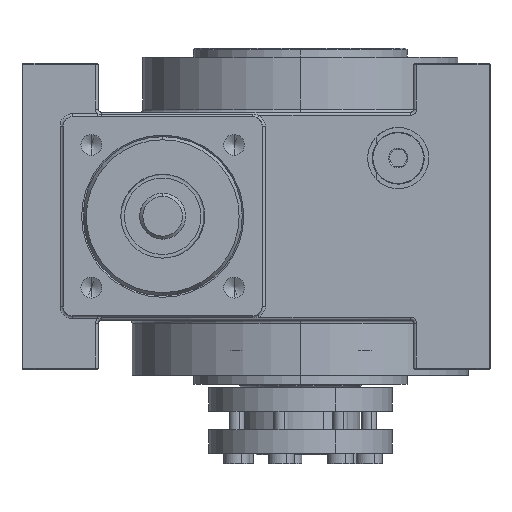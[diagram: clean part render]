
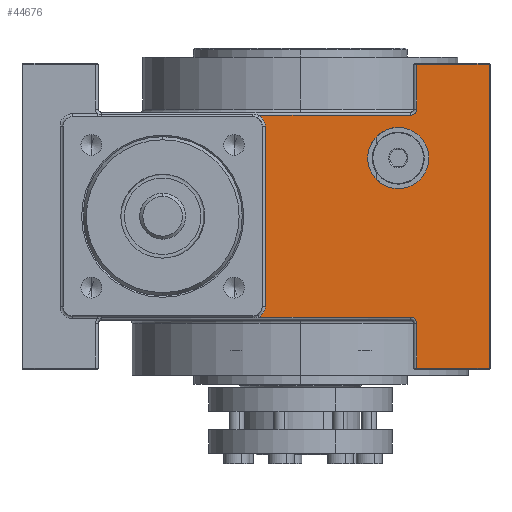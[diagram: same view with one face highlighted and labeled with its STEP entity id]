
A CAD part, left-side view. The second image highlights one B-rep face of the part: STEP entity #44676.
In plain terms, the highlighted planar face has unit normal (-1, 0, 0).
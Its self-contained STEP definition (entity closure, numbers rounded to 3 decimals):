
#506 = VECTOR ( 'NONE', #62463, 1000. ) ;
#511 = AXIS2_PLACEMENT_3D ( 'NONE', #6841, #42205, #46781 ) ;
#1431 = CARTESIAN_POINT ( 'NONE',  ( -62.219, -67.549, 31.5 ) ) ;
#1490 = VERTEX_POINT ( 'NONE', #27371 ) ;
#1752 = DIRECTION ( 'NONE',  ( 1., 0., 0. ) ) ;
#2053 = ORIENTED_EDGE ( 'NONE', *, *, #59923, .F. ) ;
#2108 = EDGE_CURVE ( 'NONE', #45476, #45695, #53449, .T. ) ;
#2197 = AXIS2_PLACEMENT_3D ( 'NONE', #56146, #10305, #31242 ) ;
#3560 = LINE ( 'NONE', #38559, #45694 ) ;
#3876 = VERTEX_POINT ( 'NONE', #54528 ) ;
#4068 = CARTESIAN_POINT ( 'NONE',  ( -62.219, -40.549, 6.5 ) ) ;
#6324 = EDGE_CURVE ( 'NONE', #12214, #3876, #10803, .T. ) ;
#6841 = CARTESIAN_POINT ( 'NONE',  ( -62.219, -40.549, 16.5 ) ) ;
#7430 = LINE ( 'NONE', #27412, #506 ) ;
#9146 = ORIENTED_EDGE ( 'NONE', *, *, #49310, .F. ) ;
#10305 = DIRECTION ( 'NONE',  ( -1., 0., 0. ) ) ;
#10524 = DIRECTION ( 'NONE',  ( 0., 0., 1. ) ) ;
#10803 = CIRCLE ( 'NONE', #27566, 4. ) ;
#11553 = CARTESIAN_POINT ( 'NONE',  ( -62.219, 5.015, 30.5 ) ) ;
#12214 = VERTEX_POINT ( 'NONE', #11553 ) ;
#12425 = ORIENTED_EDGE ( 'NONE', *, *, #38087, .T. ) ;
#12651 = CARTESIAN_POINT ( 'NONE',  ( -62.219, 2.951, -32. ) ) ;
#13230 = CARTESIAN_POINT ( 'NONE',  ( -62.219, -45.549, -35.5 ) ) ;
#13723 = VECTOR ( 'NONE', #40532, 1000. ) ;
#14045 = ORIENTED_EDGE ( 'NONE', *, *, #40128, .T. ) ;
#14430 = EDGE_CURVE ( 'NONE', #52142, #42259, #63787, .T. ) ;
#15929 = AXIS2_PLACEMENT_3D ( 'NONE', #61296, #16416, #10524 ) ;
#16416 = DIRECTION ( 'NONE',  ( -1., 0., 0. ) ) ;
#16646 = CARTESIAN_POINT ( 'NONE',  ( -62.219, -46.549, 31.5 ) ) ;
#17610 = VECTOR ( 'NONE', #36940, 1000. ) ;
#17834 = DIRECTION ( 'NONE',  ( 0., -1., 0. ) ) ;
#18204 = ORIENTED_EDGE ( 'NONE', *, *, #51955, .T. ) ;
#19026 = LINE ( 'NONE', #58998, #28898 ) ;
#19418 = VERTEX_POINT ( 'NONE', #43219 ) ;
#20765 = ORIENTED_EDGE ( 'NONE', *, *, #53134, .T. ) ;
#21447 = VECTOR ( 'NONE', #17834, 1000. ) ;
#21960 = CARTESIAN_POINT ( 'NONE',  ( -62.219, 5.015, -35.5 ) ) ;
#21977 = EDGE_LOOP ( 'NONE', ( #9146, #57598 ) ) ;
#23333 = ORIENTED_EDGE ( 'NONE', *, *, #56186, .T. ) ;
#23632 = VERTEX_POINT ( 'NONE', #62333 ) ;
#24139 = EDGE_CURVE ( 'NONE', #3876, #42672, #60787, .T. ) ;
#24368 = CIRCLE ( 'NONE', #63040, 4. ) ;
#24784 = DIRECTION ( 'NONE',  ( 0., 0., -1. ) ) ;
#26287 = CARTESIAN_POINT ( 'NONE',  ( -62.219, -40.549, 26.5 ) ) ;
#26382 = CARTESIAN_POINT ( 'NONE',  ( -62.219, 6.951, -32. ) ) ;
#27067 = DIRECTION ( 'NONE',  ( 0., 0., -1. ) ) ;
#27371 = CARTESIAN_POINT ( 'NONE',  ( -62.219, -44.549, 30.5 ) ) ;
#27412 = CARTESIAN_POINT ( 'NONE',  ( -62.219, -70.249, 47.5 ) ) ;
#27473 = ORIENTED_EDGE ( 'NONE', *, *, #60549, .T. ) ;
#27566 = AXIS2_PLACEMENT_3D ( 'NONE', #63746, #53912, #38512 ) ;
#28296 = LINE ( 'NONE', #13230, #21447 ) ;
#28299 = CIRCLE ( 'NONE', #2197, 2. ) ;
#28898 = VECTOR ( 'NONE', #38668, 1000. ) ;
#30155 = VERTEX_POINT ( 'NONE', #30853 ) ;
#30853 = CARTESIAN_POINT ( 'NONE',  ( -62.219, -46.549, -52.2 ) ) ;
#31184 = DIRECTION ( 'NONE',  ( 0., 0., -1. ) ) ;
#31242 = DIRECTION ( 'NONE',  ( 0., 0., -1. ) ) ;
#31337 = LINE ( 'NONE', #40854, #13723 ) ;
#31376 = LINE ( 'NONE', #16646, #17610 ) ;
#31477 = VERTEX_POINT ( 'NONE', #52456 ) ;
#31966 = CARTESIAN_POINT ( 'NONE',  ( -62.219, -44.549, -37.5 ) ) ;
#32157 = FACE_OUTER_BOUND ( 'NONE', #35223, .T. ) ;
#34389 = DIRECTION ( 'NONE',  ( 0., 1., 0. ) ) ;
#34712 = CARTESIAN_POINT ( 'NONE',  ( -62.219, -46.549, -37.5 ) ) ;
#35152 = VERTEX_POINT ( 'NONE', #21960 ) ;
#35223 = EDGE_LOOP ( 'NONE', ( #14045, #27473, #12425, #59612, #23333, #2053, #18204, #56673, #55198, #56989, #20765, #40175 ) ) ;
#35773 = PLANE ( 'NONE',  #36400 ) ;
#36400 = AXIS2_PLACEMENT_3D ( 'NONE', #1431, #1752, #31184 ) ;
#36940 = DIRECTION ( 'NONE',  ( 0., 0., -1. ) ) ;
#38087 = EDGE_CURVE ( 'NONE', #23632, #19418, #7430, .T. ) ;
#38512 = DIRECTION ( 'NONE',  ( 0., 0., -1. ) ) ;
#38559 = CARTESIAN_POINT ( 'NONE',  ( -62.219, -46.549, 47.2 ) ) ;
#38668 = DIRECTION ( 'NONE',  ( 0., 0., -1. ) ) ;
#39302 = LINE ( 'NONE', #48193, #43426 ) ;
#40128 = EDGE_CURVE ( 'NONE', #52142, #30155, #19026, .T. ) ;
#40175 = ORIENTED_EDGE ( 'NONE', *, *, #14430, .F. ) ;
#40288 = VERTEX_POINT ( 'NONE', #59963 ) ;
#40429 = EDGE_CURVE ( 'NONE', #19418, #31477, #3560, .T. ) ;
#40532 = DIRECTION ( 'NONE',  ( 0., -1., 0. ) ) ;
#40854 = CARTESIAN_POINT ( 'NONE',  ( -62.219, -70.549, -52.2 ) ) ;
#41019 = FACE_BOUND ( 'NONE', #21977, .T. ) ;
#42205 = DIRECTION ( 'NONE',  ( -1., 0., 0. ) ) ;
#42259 = VERTEX_POINT ( 'NONE', #47196 ) ;
#42672 = VERTEX_POINT ( 'NONE', #12651 ) ;
#43053 = DIRECTION ( 'NONE',  ( 1., 0., 0. ) ) ;
#43219 = CARTESIAN_POINT ( 'NONE',  ( -62.219, -70.249, 47.2 ) ) ;
#43426 = VECTOR ( 'NONE', #34389, 1000. ) ;
#44676 = ADVANCED_FACE ( 'NONE', ( #32157, #41019 ), #35773, .F. ) ;
#45193 = VECTOR ( 'NONE', #24784, 1000. ) ;
#45476 = VERTEX_POINT ( 'NONE', #4068 ) ;
#45695 = VERTEX_POINT ( 'NONE', #26287 ) ;
#45694 = VECTOR ( 'NONE', #58563, 1000. ) ;
#46781 = DIRECTION ( 'NONE',  ( 0., 0., 1. ) ) ;
#47196 = CARTESIAN_POINT ( 'NONE',  ( -62.219, -44.549, -35.5 ) ) ;
#48193 = CARTESIAN_POINT ( 'NONE',  ( -62.219, -67.549, 30.5 ) ) ;
#49310 = EDGE_CURVE ( 'NONE', #45695, #45476, #61994, .T. ) ;
#49999 = CARTESIAN_POINT ( 'NONE',  ( -62.219, 2.951, 31.5 ) ) ;
#51955 = EDGE_CURVE ( 'NONE', #1490, #12214, #39302, .T. ) ;
#52142 = VERTEX_POINT ( 'NONE', #34712 ) ;
#52456 = CARTESIAN_POINT ( 'NONE',  ( -62.219, -46.549, 47.2 ) ) ;
#53134 = EDGE_CURVE ( 'NONE', #35152, #42259, #28296, .T. ) ;
#53327 = AXIS2_PLACEMENT_3D ( 'NONE', #31966, #61791, #27067 ) ;
#53449 = CIRCLE ( 'NONE', #511, 10. ) ;
#53912 = DIRECTION ( 'NONE',  ( 1., 0., 0. ) ) ;
#54528 = CARTESIAN_POINT ( 'NONE',  ( -62.219, 2.951, 27. ) ) ;
#55198 = ORIENTED_EDGE ( 'NONE', *, *, #24139, .T. ) ;
#56146 = CARTESIAN_POINT ( 'NONE',  ( -62.219, -44.549, 32.5 ) ) ;
#56186 = EDGE_CURVE ( 'NONE', #31477, #40288, #31376, .T. ) ;
#56673 = ORIENTED_EDGE ( 'NONE', *, *, #6324, .T. ) ;
#56989 = ORIENTED_EDGE ( 'NONE', *, *, #62238, .T. ) ;
#57598 = ORIENTED_EDGE ( 'NONE', *, *, #2108, .F. ) ;
#58563 = DIRECTION ( 'NONE',  ( 0., 1., 0. ) ) ;
#58998 = CARTESIAN_POINT ( 'NONE',  ( -62.219, -46.549, 31.5 ) ) ;
#59612 = ORIENTED_EDGE ( 'NONE', *, *, #40429, .T. ) ;
#59923 = EDGE_CURVE ( 'NONE', #1490, #40288, #28299, .T. ) ;
#59963 = CARTESIAN_POINT ( 'NONE',  ( -62.219, -46.549, 32.5 ) ) ;
#60549 = EDGE_CURVE ( 'NONE', #30155, #23632, #31337, .T. ) ;
#60787 = LINE ( 'NONE', #49999, #45193 ) ;
#61296 = CARTESIAN_POINT ( 'NONE',  ( -62.219, -40.549, 16.5 ) ) ;
#61791 = DIRECTION ( 'NONE',  ( -1., 0., 0. ) ) ;
#61994 = CIRCLE ( 'NONE', #15929, 10. ) ;
#62238 = EDGE_CURVE ( 'NONE', #42672, #35152, #24368, .T. ) ;
#62333 = CARTESIAN_POINT ( 'NONE',  ( -62.219, -70.249, -52.2 ) ) ;
#62463 = DIRECTION ( 'NONE',  ( 0., 0., 1. ) ) ;
#63040 = AXIS2_PLACEMENT_3D ( 'NONE', #26382, #43053, #63368 ) ;
#63368 = DIRECTION ( 'NONE',  ( 0., 0., -1. ) ) ;
#63746 = CARTESIAN_POINT ( 'NONE',  ( -62.219, 6.951, 27. ) ) ;
#63787 = CIRCLE ( 'NONE', #53327, 2. ) ;
